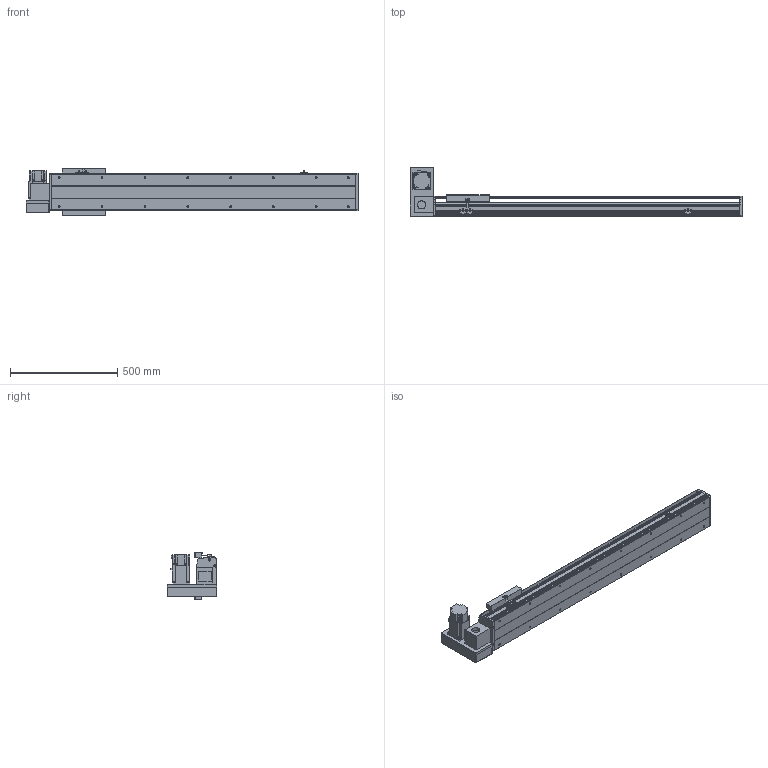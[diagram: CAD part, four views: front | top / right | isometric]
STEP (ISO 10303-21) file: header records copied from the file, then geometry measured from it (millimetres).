
FILE_DESCRIPTION(/* description */ ('STEP AP214'),/* implementation_level */ '2;1');
FILE_NAME(/* name */ 'PBS200-P40-S1050-LU-T75-C1-N(0)',/* time_stamp */ '2022-06-11T08:59:45+02:00',/* author */ ('License CC BY-ND 4.0'),/* organization */ ('CADENAS'),/* preprocessor_version */ 'ST-DEVELOPER v18.102',/* originating_system */ 'PARTsolutions',/* authorisation */ ' ');
FILE_SCHEMA (('AUTOMOTIVE_DESIGN {1 0 10303 214 3 1 1}'));
Length unit declared in the file: millimetre
Products named in the file (7): PBS200-P40-S1050-LU-T75-C1-N(0); PBS200_sensor; PBS200_plant; PBS200_sliser; T75-p1; PBS200T-LU_motors; PBS200-S1050()_body
Assembly tree (8 placements, depth 2):
  PBS200-P40-S1050-LU-T75-C1-N(0)
    PBS200_sensor  x3
    PBS200_plant
    PBS200_sliser
    T75-p1
    PBS200T-LU_motors
    PBS200-S1050()_body
Bounding box: 1550 x 231 x 221 mm (x, y, z)
Volume: 11549624.3 mm3; surface area: 1868706.8 mm2
Topology: 8 solids, 8 shells, 920 faces, 2374 edges, 1548 vertices
Faces by surface type: plane 574, cylinder 298, cone 48
Full cylindrical faces by diameter (mm): 2.459 x6, 3.242 x4, 4.5 x6, 4.917 x4, 5 x6, 6 x7, 6.6 x8, 6.647 x20, 8 x6, 10 x4, 12 x8, 38 x2, 40 x1, 70 x1
Entity records: 24581 total; most frequent: DIRECTION 4327, CARTESIAN_POINT 4192, ORIENTED_EDGE 3982, EDGE_CURVE 1991, AXIS2_PLACEMENT_3D 1507, VERTEX_POINT 1372, LINE 1313, VECTOR 1313
